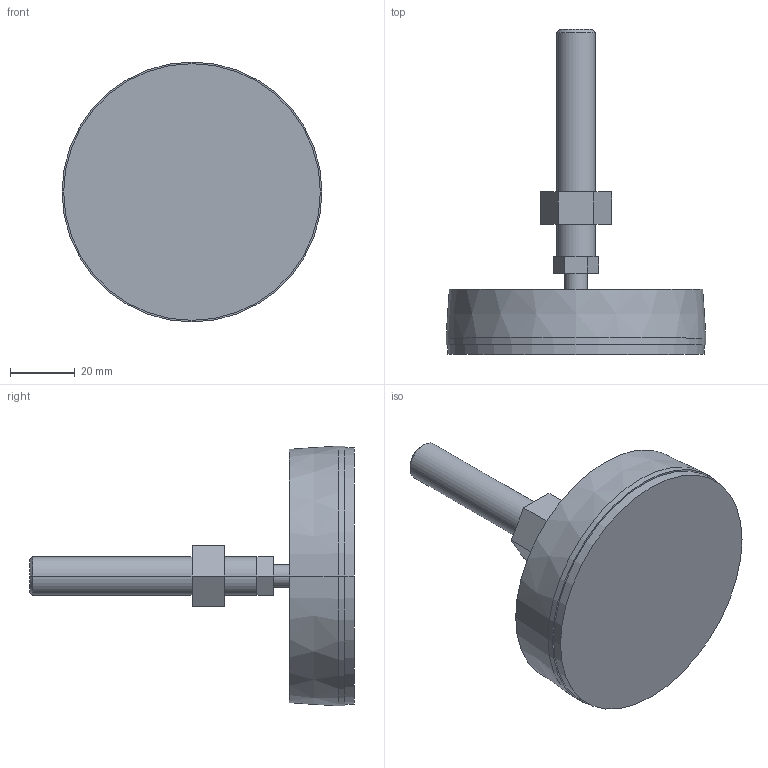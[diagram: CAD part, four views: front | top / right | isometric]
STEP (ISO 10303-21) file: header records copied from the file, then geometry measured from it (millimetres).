
FILE_DESCRIPTION((''),'2;1');
FILE_NAME('SUP08012','2002-12-27T',('Lipro doo'),('Lipro d.o.o.'),'PRO/ENGINEER BY PARAMETRIC TECHNOLOGY CORPORATION, 2001150','PRO/ENGINEER BY PARAMETRIC TECHNOLOGY CORPORATION, 2001150','');
FILE_SCHEMA(('CONFIG_CONTROL_DESIGN'));
Length unit declared in the file: millimetre
Products named in the file (1): SUP08012
Bounding box: 80 x 100 x 80 mm (x, y, z)
Volume: 108997.4 mm3; surface area: 20768.4 mm2
Topology: 1 solids, 2 shells, 41 faces, 92 edges, 58 vertices
Faces by surface type: plane 25, cylinder 12, cone 4
Entity records: 1184 total; most frequent: DIRECTION 210, CARTESIAN_POINT 192, ORIENTED_EDGE 180, EDGE_CURVE 92, AXIS2_PLACEMENT_3D 76, VECTOR 58, LINE 58, VERTEX_POINT 58
